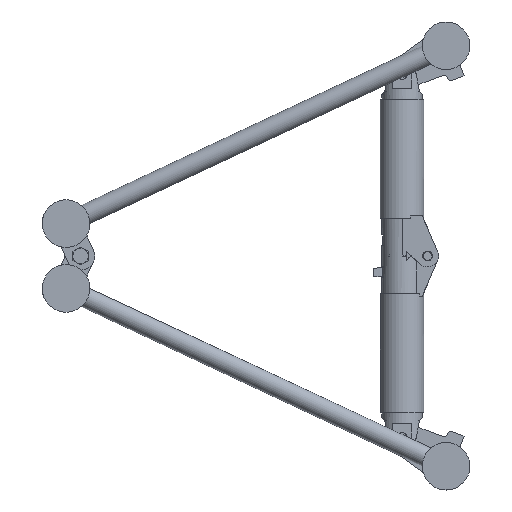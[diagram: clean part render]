
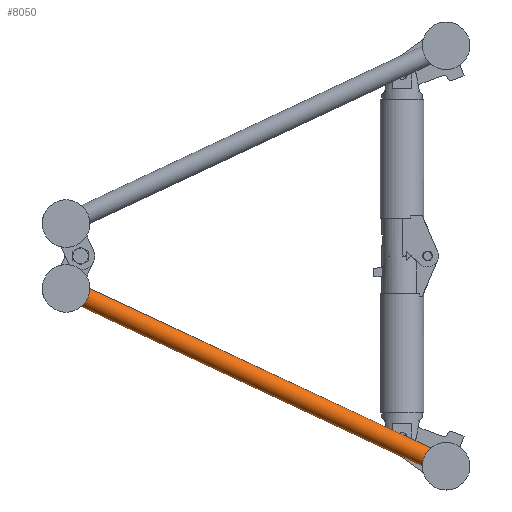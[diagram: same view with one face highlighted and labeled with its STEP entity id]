
A CAD part, left-side view. The second image highlights one B-rep face of the part: STEP entity #8050.
In plain terms, the highlighted cylindrical face has radius 12.5 mm (diameter 25 mm), a full revolution.
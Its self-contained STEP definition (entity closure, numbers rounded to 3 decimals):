
#182=B_SPLINE_CURVE_WITH_KNOTS('',3,(#13192,#13193,#13194,#13195,#13196,
#13197),.UNSPECIFIED.,.F.,.F.,(4,2,4),(1.801,1.922,
2.043),.UNSPECIFIED.);
#183=B_SPLINE_CURVE_WITH_KNOTS('',3,(#13201,#13202,#13203,#13204,#13205,
#13206),.UNSPECIFIED.,.F.,.F.,(4,2,4),(5.645,5.766,
5.887),.UNSPECIFIED.);
#186=B_SPLINE_CURVE_WITH_KNOTS('',3,(#13241,#13242,#13243,#13244,#13245,
#13246),.UNSPECIFIED.,.F.,.F.,(4,2,4),(5.645,5.766,
5.887),.UNSPECIFIED.);
#187=B_SPLINE_CURVE_WITH_KNOTS('',3,(#13250,#13251,#13252,#13253,#13254,
#13255),.UNSPECIFIED.,.F.,.F.,(4,2,4),(1.801,1.922,
2.043),.UNSPECIFIED.);
#433=FACE_BOUND('',#1858,.T.);
#739=CIRCLE('',#8773,12.5);
#740=CIRCLE('',#8775,12.5);
#741=CIRCLE('',#8776,12.5);
#742=CIRCLE('',#8777,12.5);
#932=CYLINDRICAL_SURFACE('',#8774,12.5);
#1281=FACE_OUTER_BOUND('',#1857,.T.);
#1857=EDGE_LOOP('',(#6264,#6265,#6266,#6267));
#1858=EDGE_LOOP('',(#6268,#6269,#6270,#6271));
#3587=VERTEX_POINT('',#13190);
#3588=VERTEX_POINT('',#13191);
#3589=VERTEX_POINT('',#13198);
#3590=VERTEX_POINT('',#13200);
#3598=VERTEX_POINT('',#13239);
#3599=VERTEX_POINT('',#13240);
#3600=VERTEX_POINT('',#13247);
#3601=VERTEX_POINT('',#13249);
#4545=EDGE_CURVE('',#3587,#3588,#182,.T.);
#4547=EDGE_CURVE('',#3590,#3589,#183,.T.);
#4557=EDGE_CURVE('',#3589,#3587,#739,.T.);
#4558=EDGE_CURVE('',#3598,#3599,#186,.T.);
#4559=EDGE_CURVE('',#3599,#3600,#740,.T.);
#4560=EDGE_CURVE('',#3600,#3601,#187,.T.);
#4561=EDGE_CURVE('',#3601,#3598,#741,.T.);
#4562=EDGE_CURVE('',#3588,#3590,#742,.T.);
#6264=ORIENTED_EDGE('',*,*,#4558,.T.);
#6265=ORIENTED_EDGE('',*,*,#4559,.T.);
#6266=ORIENTED_EDGE('',*,*,#4560,.T.);
#6267=ORIENTED_EDGE('',*,*,#4561,.T.);
#6268=ORIENTED_EDGE('',*,*,#4547,.T.);
#6269=ORIENTED_EDGE('',*,*,#4557,.T.);
#6270=ORIENTED_EDGE('',*,*,#4545,.T.);
#6271=ORIENTED_EDGE('',*,*,#4562,.T.);
#8050=ADVANCED_FACE('',(#1281,#433),#932,.T.);
#8773=AXIS2_PLACEMENT_3D('',#13237,#10532,#10533);
#8774=AXIS2_PLACEMENT_3D('',#13238,#10534,#10535);
#8775=AXIS2_PLACEMENT_3D('',#13248,#10536,#10537);
#8776=AXIS2_PLACEMENT_3D('',#13256,#10538,#10539);
#8777=AXIS2_PLACEMENT_3D('',#13257,#10540,#10541);
#10532=DIRECTION('center_axis',(0.,0.906,
0.424));
#10533=DIRECTION('ref_axis',(-1.,0.,0.));
#10534=DIRECTION('center_axis',(0.,0.906,
0.424));
#10535=DIRECTION('ref_axis',(-1.,0.,0.));
#10536=DIRECTION('center_axis',(0.,-0.906,
-0.424));
#10537=DIRECTION('ref_axis',(-1.,0.,0.));
#10538=DIRECTION('center_axis',(0.,-0.906,
-0.424));
#10539=DIRECTION('ref_axis',(-1.,0.,0.));
#10540=DIRECTION('center_axis',(0.,0.906,
0.424));
#10541=DIRECTION('ref_axis',(-1.,0.,0.));
#13190=CARTESIAN_POINT('',(-695.06,22.096,-248.305));
#13191=CARTESIAN_POINT('',(-695.06,23.134,-250.523));
#13192=CARTESIAN_POINT('Ctrl Pts',(-695.06,22.096,-248.305));
#13193=CARTESIAN_POINT('Ctrl Pts',(-695.02,22.289,-248.669));
#13194=CARTESIAN_POINT('Ctrl Pts',(-695.,22.471,-249.036));
#13195=CARTESIAN_POINT('Ctrl Pts',(-695.,22.813,-249.767));
#13196=CARTESIAN_POINT('Ctrl Pts',(-695.02,22.978,-250.142));
#13197=CARTESIAN_POINT('Ctrl Pts',(-695.06,23.134,-250.523));
#13198=CARTESIAN_POINT('',(-719.94,22.096,-248.305));
#13200=CARTESIAN_POINT('',(-719.94,23.134,-250.523));
#13201=CARTESIAN_POINT('Ctrl Pts',(-719.94,23.134,-250.523));
#13202=CARTESIAN_POINT('Ctrl Pts',(-719.98,22.978,-250.142));
#13203=CARTESIAN_POINT('Ctrl Pts',(-720.,22.813,-249.767));
#13204=CARTESIAN_POINT('Ctrl Pts',(-720.,22.471,-249.036));
#13205=CARTESIAN_POINT('Ctrl Pts',(-719.98,22.289,-248.669));
#13206=CARTESIAN_POINT('Ctrl Pts',(-719.94,22.096,-248.305));
#13237=CARTESIAN_POINT('Origin',(-707.5,22.615,-249.414));
#13238=CARTESIAN_POINT('Origin',(-707.5,234.999,-150.));
#13239=CARTESIAN_POINT('',(-719.94,446.865,-49.477));
#13240=CARTESIAN_POINT('',(-719.94,447.903,-51.695));
#13241=CARTESIAN_POINT('Ctrl Pts',(-719.94,446.865,-49.477));
#13242=CARTESIAN_POINT('Ctrl Pts',(-719.98,447.021,-49.858));
#13243=CARTESIAN_POINT('Ctrl Pts',(-720.,447.185,-50.233));
#13244=CARTESIAN_POINT('Ctrl Pts',(-720.,447.528,-50.964));
#13245=CARTESIAN_POINT('Ctrl Pts',(-719.98,447.71,-51.331));
#13246=CARTESIAN_POINT('Ctrl Pts',(-719.94,447.903,-51.695));
#13247=CARTESIAN_POINT('',(-695.06,447.903,-51.695));
#13248=CARTESIAN_POINT('Origin',(-707.5,447.384,-50.586));
#13249=CARTESIAN_POINT('',(-695.06,446.865,-49.477));
#13250=CARTESIAN_POINT('Ctrl Pts',(-695.06,447.903,-51.695));
#13251=CARTESIAN_POINT('Ctrl Pts',(-695.02,447.71,-51.331));
#13252=CARTESIAN_POINT('Ctrl Pts',(-695.,447.528,-50.964));
#13253=CARTESIAN_POINT('Ctrl Pts',(-695.,447.185,-50.233));
#13254=CARTESIAN_POINT('Ctrl Pts',(-695.02,447.021,-49.858));
#13255=CARTESIAN_POINT('Ctrl Pts',(-695.06,446.865,-49.477));
#13256=CARTESIAN_POINT('Origin',(-707.5,447.384,-50.586));
#13257=CARTESIAN_POINT('Origin',(-707.5,22.615,-249.414));
